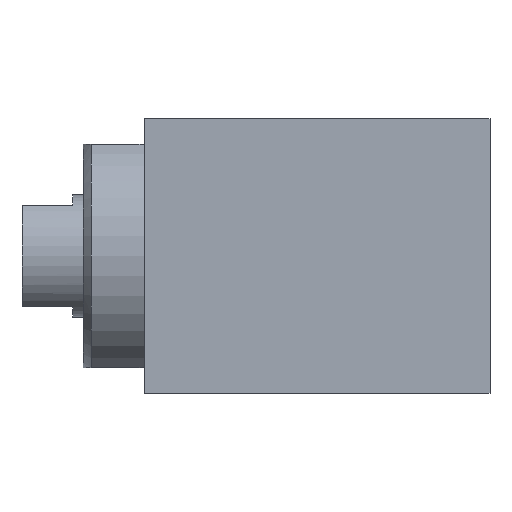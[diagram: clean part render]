
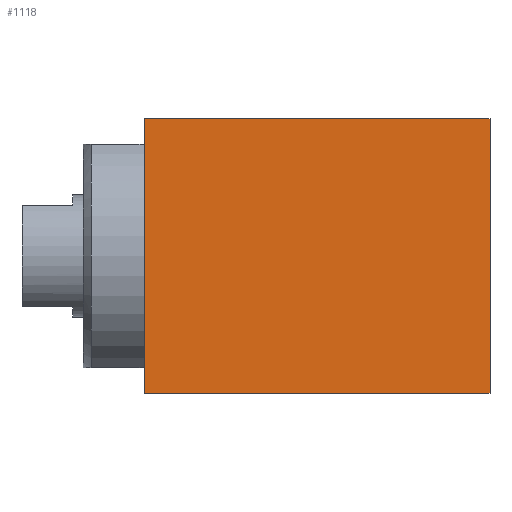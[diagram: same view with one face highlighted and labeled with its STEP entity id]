
A CAD part, front view. The second image highlights one B-rep face of the part: STEP entity #1118.
In plain terms, the highlighted planar face has unit normal (0, -1, 0).
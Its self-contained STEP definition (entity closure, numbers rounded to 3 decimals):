
#7 = PLANE ( 'NONE',  #724 ) ;
#57 = ORIENTED_EDGE ( 'NONE', *, *, #1524, .F. ) ;
#144 = VECTOR ( 'NONE', #1008, 1000. ) ;
#187 = CARTESIAN_POINT ( 'NONE',  ( 17., -11.5, -6.75 ) ) ;
#226 = DIRECTION ( 'NONE',  ( 0., -1., 0. ) ) ;
#261 = DIRECTION ( 'NONE',  ( -1., 0., 0. ) ) ;
#283 = VECTOR ( 'NONE', #261, 1000. ) ;
#387 = VECTOR ( 'NONE', #2542, 1000. ) ;
#455 = CARTESIAN_POINT ( 'NONE',  ( 17., -11.5, -6.75 ) ) ;
#498 = VERTEX_POINT ( 'NONE', #818 ) ;
#657 = EDGE_CURVE ( 'NONE', #2249, #2123, #1132, .T. ) ;
#689 = ORIENTED_EDGE ( 'NONE', *, *, #837, .T. ) ;
#724 = AXIS2_PLACEMENT_3D ( 'NONE', #2138, #226, #1675 ) ;
#764 = FACE_OUTER_BOUND ( 'NONE', #1165, .T. ) ;
#818 = CARTESIAN_POINT ( 'NONE',  ( 0., -11.5, -6.75 ) ) ;
#837 = EDGE_CURVE ( 'NONE', #2123, #1324, #2978, .T. ) ;
#1008 = DIRECTION ( 'NONE',  ( 0., 0., 1. ) ) ;
#1095 = ORIENTED_EDGE ( 'NONE', *, *, #1862, .F. ) ;
#1118 = ADVANCED_FACE ( 'NONE', ( #764 ), #7, .T. ) ;
#1132 = LINE ( 'NONE', #187, #387 ) ;
#1165 = EDGE_LOOP ( 'NONE', ( #57, #1095, #2413, #689 ) ) ;
#1324 = VERTEX_POINT ( 'NONE', #2843 ) ;
#1417 = CARTESIAN_POINT ( 'NONE',  ( 17., -11.5, 6.75 ) ) ;
#1524 = EDGE_CURVE ( 'NONE', #498, #1324, #1884, .T. ) ;
#1675 = DIRECTION ( 'NONE',  ( 1., 0., 0. ) ) ;
#1759 = CARTESIAN_POINT ( 'NONE',  ( 17., -11.5, 6.75 ) ) ;
#1862 = EDGE_CURVE ( 'NONE', #2249, #498, #2357, .T. ) ;
#1884 = LINE ( 'NONE', #1911, #144 ) ;
#1911 = CARTESIAN_POINT ( 'NONE',  ( 0., -11.5, -6.75 ) ) ;
#2123 = VERTEX_POINT ( 'NONE', #1759 ) ;
#2129 = DIRECTION ( 'NONE',  ( -1., 0., 0. ) ) ;
#2138 = CARTESIAN_POINT ( 'NONE',  ( 17., -11.5, -6.75 ) ) ;
#2249 = VERTEX_POINT ( 'NONE', #2585 ) ;
#2357 = LINE ( 'NONE', #455, #283 ) ;
#2413 = ORIENTED_EDGE ( 'NONE', *, *, #657, .T. ) ;
#2542 = DIRECTION ( 'NONE',  ( 0., 0., 1. ) ) ;
#2583 = VECTOR ( 'NONE', #2129, 1000. ) ;
#2585 = CARTESIAN_POINT ( 'NONE',  ( 17., -11.5, -6.75 ) ) ;
#2843 = CARTESIAN_POINT ( 'NONE',  ( 0., -11.5, 6.75 ) ) ;
#2978 = LINE ( 'NONE', #1417, #2583 ) ;
